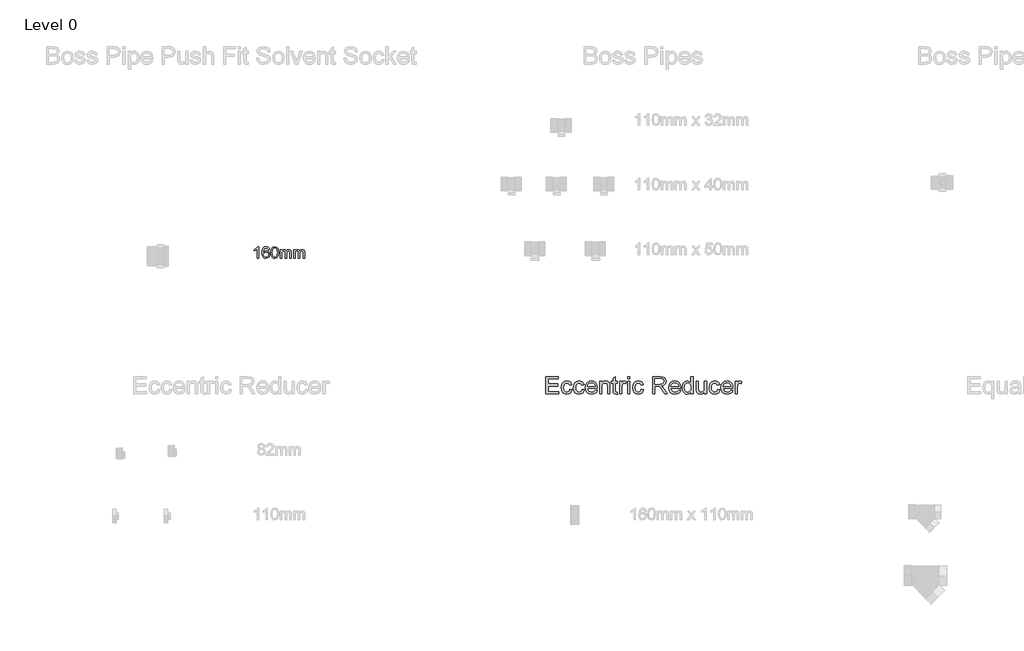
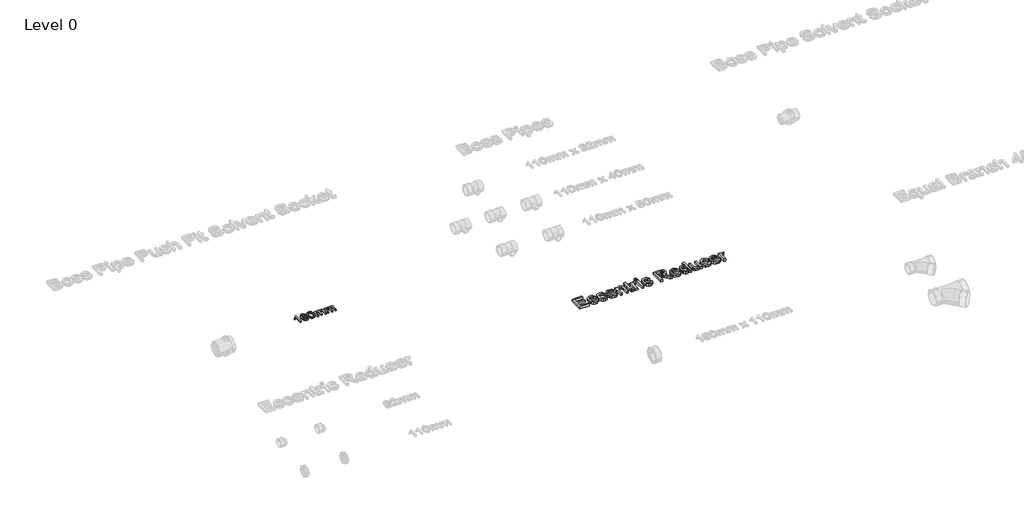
# One storey, part 10 of 28: 2 proxies.
"""IFC4 building model written with IfcOpenShell, lengths in millimetres."""

from ifc_helpers import new_model, si_unit, origin, origin_with_axes, place, context, project, spatial, polyline, outline, extrude, element, save

model = new_model("IFC4")

# Units and contexts
model_context = context("Model", 3, world=origin())
ifc_project = project(units=[si_unit("LENGTHUNIT", "METRE", prefix="MILLI")], contexts=[model_context])

# Site, building, storey
site = spatial("IfcSite", under=ifc_project)
building = spatial("IfcBuilding", under=site)
storey = spatial("IfcBuildingStorey", under=building, Name="Level 0", Elevation=0.0)

# Proxies
placement = place(None, origin())
element("IfcBuildingElementProxy", 1, Name="100mm Arial", ObjectType="100mm Arial", at=placement, inside=storey, context=model_context, shape_type="SweptSolid", body=[
    extrude(outline(polyline([(-20791.7293188, 4857.7167304), (-20804.0370111, 4857.7167304), (-20804.0370111, 4934.4474996), (-20815.6956649, 4926.1422111), (-20828.6523957, 4919.9282688), (-20828.6523957, 4931.5628842), (-20810.6115303, 4943.0773073), (-20799.6620111, 4956.1782688), (-20791.7293188, 4956.1782688), (-20791.7293188, 4857.7167304)])), origin_with_axes(), (0.0, 0.0, 1.0), 15.0),
    extrude(outline(polyline([(-20699.4216264, 4930.0244227), (-20711.7293188, 4928.4859611), (-20716.3927803, 4938.7503842), (-20728.7245111, 4943.8705765), (-20739.8302803, 4940.8898073), (-20748.2317226, 4929.6999035), (-20751.7293188, 4907.7648073), (-20740.8759534, 4917.5845188), (-20727.4264341, 4920.7936535), (-20716.0562418, 4918.6001438), (-20706.5129726, 4912.019615), (-20700.0406168, 4901.9655285), (-20697.8831649, 4889.3513458), (-20701.9456649, 4872.3681727), (-20713.1235495, 4860.3489419), (-20729.2533572, 4856.1782688), (-20743.2166986, 4858.9426919), (-20754.3374918, 4867.2359611), (-20761.6121313, 4881.8753842), (-20764.0370111, 4903.6782688), (-20761.3447034, 4928.19149), (-20753.2677803, 4944.9523073), (-20742.2401361, 4953.3717785), (-20727.9552803, 4956.1782688), (-20717.1560014, 4954.44149), (-20708.5081649, 4949.2311535), (-20702.4504726, 4940.9559131), (-20699.4216264, 4930.0244227)]), holes=[polyline([(-20751.7293188, 4889.5436535), (-20748.8807611, 4878.8825958), (-20741.3086457, 4871.1422111), (-20730.2148957, 4868.4859611), (-20722.0929005, 4869.8621631), (-20715.7076841, 4873.9907688), (-20711.5700639, 4880.4811535), (-20710.1908572, 4888.9426919), (-20711.5520351, 4897.0646871), (-20715.6355688, 4903.2575958), (-20730.7197034, 4908.4859611), (-20745.6115303, 4903.2575958), (-20750.1998716, 4897.2149275), (-20751.7293188, 4889.5436535)])]), origin_with_axes(), (0.0, 0.0, 1.0), 15.0),
    extrude(outline(polyline([(-20687.1139341, 4906.1542304), (-20683.4961457, 4934.4835573), (-20672.7509534, 4950.8176919), (-20654.8062418, 4956.1782688), (-20640.4312418, 4953.0051919), (-20630.5033572, 4943.8585573), (-20624.7341264, 4929.2912496), (-20622.4985495, 4906.1542304), (-20626.0802803, 4877.9450958), (-20636.7894149, 4861.5749035), (-20654.8062418, 4856.1782688), (-20667.5947034, 4858.5220188), (-20677.3062418, 4865.5532688), (-20684.6620111, 4882.2059131), (-20687.1139341, 4906.1542304)]), holes=[polyline([(-20674.8062418, 4906.1782688), (-20673.3639341, 4886.8182929), (-20669.0370111, 4875.613365), (-20662.5947034, 4870.2678121), (-20654.8062418, 4868.4859611), (-20647.0177803, 4870.2738217), (-20640.5754726, 4875.6374035), (-20636.2485495, 4886.848341), (-20634.8062418, 4906.1782688), (-20636.2004726, 4925.1025477), (-20640.3831649, 4936.394615), (-20646.8134534, 4942.0015861), (-20654.9504726, 4943.8705765), (-20662.6547995, 4942.2239419), (-20668.8447034, 4937.2840381), (-20673.3158572, 4925.2888458), (-20674.8062418, 4906.1782688)])]), origin_with_axes(), (0.0, 0.0, 1.0), 15.0),
    extrude(outline(polyline([(-20608.6523957, 4857.7167304), (-20608.6523957, 4930.0244227), (-20596.3447034, 4930.0244227), (-20596.3447034, 4918.1253842), (-20587.8831649, 4927.8729804), (-20575.8398957, 4931.5628842), (-20563.5081649, 4927.800865), (-20556.7293188, 4917.2599996), (-20547.1259534, 4927.9871631), (-20534.9985495, 4931.5628842), (-20525.7467466, 4930.0755044), (-20518.9047995, 4925.613365), (-20514.6770351, 4918.0562736), (-20513.2677803, 4907.2840381), (-20513.2677803, 4857.7167304), (-20525.5754726, 4857.7167304), (-20525.5754726, 4901.9955765), (-20526.7172995, 4912.2720188), (-20530.8519149, 4917.332115), (-20537.8831649, 4919.2551919), (-20549.9865303, 4914.3273073), (-20554.8062418, 4898.5340381), (-20554.8062418, 4857.7167304), (-20567.1139341, 4857.7167304), (-20567.1139341, 4903.3657688), (-20569.9624918, 4915.2888458), (-20579.3014341, 4919.2551919), (-20588.4120111, 4916.6109611), (-20594.4697034, 4908.8705765), (-20596.3447034, 4894.1830765), (-20596.3447034, 4857.7167304), (-20608.6523957, 4857.7167304)])), origin_with_axes(), (0.0, 0.0, 1.0), 15.0),
    extrude(outline(polyline([(-20494.8062418, 4857.7167304), (-20494.8062418, 4930.0244227), (-20482.4985495, 4930.0244227), (-20482.4985495, 4918.1253842), (-20474.0370111, 4927.8729804), (-20461.9937418, 4931.5628842), (-20449.6620111, 4927.800865), (-20442.8831649, 4917.2599996), (-20433.2797995, 4927.9871631), (-20421.1523957, 4931.5628842), (-20411.9005928, 4930.0755044), (-20405.0586457, 4925.613365), (-20400.8308813, 4918.0562736), (-20399.4216264, 4907.2840381), (-20399.4216264, 4857.7167304), (-20411.7293188, 4857.7167304), (-20411.7293188, 4901.9955765), (-20412.8711457, 4912.2720188), (-20417.0057611, 4917.332115), (-20424.0370111, 4919.2551919), (-20436.1403764, 4914.3273073), (-20440.960088, 4898.5340381), (-20440.960088, 4857.7167304), (-20453.2677803, 4857.7167304), (-20453.2677803, 4903.3657688), (-20456.116338, 4915.2888458), (-20465.4552803, 4919.2551919), (-20474.5658572, 4916.6109611), (-20480.6235495, 4908.8705765), (-20482.4985495, 4894.1830765), (-20482.4985495, 4857.7167304), (-20494.8062418, 4857.7167304)])), origin_with_axes(), (0.0, 0.0, 1.0), 15.0),
])
element("IfcBuildingElementProxy", 2, Name="150mm Arial", ObjectType="150mm Arial", at=placement, inside=storey, context=model_context, shape_type="SweptSolid", body=[
    extrude(outline(polyline([(-18351.7587589, 3705.2145219), (-18351.7587589, 3852.9068296), (-18245.6049127, 3852.9068296), (-18245.6049127, 3834.4452911), (-18333.2972204, 3834.4452911), (-18333.2972204, 3790.5991373), (-18250.2202973, 3790.5991373), (-18250.2202973, 3772.1375988), (-18333.2972204, 3772.1375988), (-18333.2972204, 3723.6760604), (-18243.2972204, 3723.6760604), (-18243.2972204, 3705.2145219), (-18351.7587589, 3705.2145219)])), origin_with_axes(), (0.0, 0.0, 1.0), 25.0),
    extrude(outline(polyline([(-18148.6818358, 3744.4452911), (-18130.2202973, 3742.1375988), (-18135.3675329, 3725.7178272), (-18145.0400089, 3713.3094738), (-18158.3272685, 3705.5074907), (-18174.318855, 3702.9068296), (-18193.9567757, 3706.5351349), (-18209.3128454, 3717.4200508), (-18219.2242036, 3735.0838128), (-18222.5279897, 3759.0486565), (-18216.8849608, 3789.7157238), (-18209.7635666, 3801.2136205), (-18199.6854416, 3809.4212527), (-18187.6286507, 3814.3431277), (-18174.5712589, 3815.9837527), (-18158.9717997, 3813.7301469), (-18146.5003454, 3806.9693296), (-18137.5535305, 3796.0618777), (-18132.5279897, 3781.3683681), (-18150.9895281, 3779.0606758), (-18159.55323, 3792.8888008), (-18174.4270281, 3797.5222142), (-18186.3576171, 3795.2415652), (-18195.8272685, 3788.3996181), (-18202.0066555, 3776.6267815), (-18204.0664512, 3759.5534642), (-18202.0517276, 3742.2502791), (-18196.007557, 3730.4368777), (-18186.7091796, 3723.6354955), (-18174.9318358, 3721.3683681), (-18165.3720401, 3722.7836325), (-18157.5339993, 3727.0294258), (-18151.8323767, 3734.213921), (-18148.6818358, 3744.4452911)])), origin_with_axes(), (0.0, 0.0, 1.0), 25.0),
    extrude(outline(polyline([(-18044.835682, 3744.4452911), (-18026.3741435, 3742.1375988), (-18031.5213791, 3725.7178272), (-18041.193855, 3713.3094738), (-18054.4811147, 3705.5074907), (-18070.4727012, 3702.9068296), (-18090.1106219, 3706.5351349), (-18105.4666916, 3717.4200508), (-18115.3780497, 3735.0838128), (-18118.6818358, 3759.0486565), (-18113.038807, 3789.7157238), (-18105.9174127, 3801.2136205), (-18095.8392877, 3809.4212527), (-18083.7824969, 3814.3431277), (-18070.725105, 3815.9837527), (-18055.1256459, 3813.7301469), (-18042.6541916, 3806.9693296), (-18033.7073767, 3796.0618777), (-18028.6818358, 3781.3683681), (-18047.1433743, 3779.0606758), (-18055.7070762, 3792.8888008), (-18070.5808743, 3797.5222142), (-18082.5114632, 3795.2415652), (-18091.9811147, 3788.3996181), (-18098.1605017, 3776.6267815), (-18100.2202973, 3759.5534642), (-18098.2055738, 3742.2502791), (-18092.1614031, 3730.4368777), (-18082.8630257, 3723.6354955), (-18071.085682, 3721.3683681), (-18061.5258863, 3722.7836325), (-18053.6878454, 3727.0294258), (-18047.9862228, 3734.213921), (-18044.835682, 3744.4452911)])), origin_with_axes(), (0.0, 0.0, 1.0), 25.0),
    extrude(outline(polyline([(-17934.2827973, 3737.5222142), (-17916.1818358, 3735.2145219), (-17922.7037709, 3721.5756998), (-17933.1109223, 3711.3803873), (-17947.1689151, 3705.025219), (-17964.6433743, 3702.9068296), (-17986.3050329, 3706.5621782), (-18002.9727012, 3717.5282238), (-18013.600706, 3735.0928272), (-18017.1433743, 3758.5438488), (-18013.5646483, 3782.7836325), (-18002.8284704, 3800.9116373), (-17986.3861627, 3812.2157238), (-17965.6890473, 3815.9837527), (-17945.6364632, 3812.2247383), (-17929.6133262, 3800.947695), (-17919.1070161, 3782.8557479), (-17915.6049127, 3758.6520219), (-17915.7130858, 3753.6760604), (-17998.6818358, 3753.6760604), (-17995.4862228, 3739.8569498), (-17988.0628454, 3729.697695), (-17977.3492036, 3723.4506998), (-17964.2827973, 3721.3683681), (-17946.1818358, 3725.2265411), (-17934.2827973, 3737.5222142)]), holes=[polyline([(-17998.6818358, 3772.1375988), (-17934.0664512, 3772.1375988), (-17936.5634464, 3781.8912046), (-17941.4582781, 3788.8683681), (-17952.2214993, 3795.3587527), (-17965.7611627, 3797.5222142), (-17978.2055738, 3795.7959522), (-17988.4955377, 3790.6171661), (-17995.6484824, 3782.5447503), (-17998.6818358, 3772.1375988)])]), origin_with_axes(), (0.0, 0.0, 1.0), 25.0),
    extrude(outline(polyline([(-17897.1433743, 3705.2145219), (-17897.1433743, 3813.6760604), (-17878.6818358, 3813.6760604), (-17878.6818358, 3798.5318296), (-17864.5652493, 3811.6207719), (-17845.2924127, 3815.9837527), (-17827.8585185, 3812.4681277), (-17815.95948, 3803.2373585), (-17810.4246243, 3789.6616373), (-17809.4510666, 3771.8130796), (-17809.4510666, 3705.2145219), (-17827.912605, 3705.2145219), (-17827.912605, 3769.3250988), (-17830.0400089, 3785.6592335), (-17837.5580377, 3794.2950508), (-17850.2323166, 3797.5222142), (-17861.0451171, 3795.7103152), (-17870.2623647, 3790.2746181), (-17876.576968, 3779.7728152), (-17878.6818358, 3762.7625988), (-17878.6818358, 3705.2145219), (-17897.1433743, 3705.2145219)])), origin_with_axes(), (0.0, 0.0, 1.0), 25.0),
    extrude(outline(polyline([(-17744.835682, 3720.6111565), (-17742.5279897, 3704.6736565), (-17756.3380858, 3702.9068296), (-17771.8068358, 3705.9717335), (-17779.523182, 3714.0125988), (-17781.7587589, 3734.9621181), (-17781.7587589, 3795.2145219), (-17795.6049127, 3795.2145219), (-17795.6049127, 3813.6760604), (-17781.7587589, 3813.6760604), (-17781.7587589, 3840.0342335), (-17763.2972204, 3850.8875988), (-17763.2972204, 3813.6760604), (-17744.835682, 3813.6760604), (-17744.835682, 3795.2145219), (-17763.2972204, 3795.2145219), (-17763.2972204, 3735.5029835), (-17762.3236627, 3725.9837527), (-17759.1686147, 3722.6123585), (-17752.8765473, 3721.3683681), (-17744.835682, 3720.6111565)])), origin_with_axes(), (0.0, 0.0, 1.0), 25.0),
    extrude(outline(polyline([(-17726.3741435, 3705.2145219), (-17726.3741435, 3813.6760604), (-17710.2202973, 3813.6760604), (-17710.2202973, 3797.6303873), (-17698.7539512, 3812.4140411), (-17687.2154897, 3815.9837527), (-17668.6818358, 3810.2866373), (-17674.8477012, 3793.7361565), (-17687.8284704, 3797.5222142), (-17698.2671723, 3793.8803873), (-17704.9198166, 3783.7842335), (-17707.912605, 3762.2217335), (-17707.912605, 3705.2145219), (-17726.3741435, 3705.2145219)])), origin_with_axes(), (0.0, 0.0, 1.0), 25.0),
    extrude(outline(polyline([(-17657.1433743, 3834.4452911), (-17657.1433743, 3852.9068296), (-17638.6818358, 3852.9068296), (-17638.6818358, 3834.4452911), (-17657.1433743, 3834.4452911)])), origin_with_axes(), (0.0, 0.0, 1.0), 25.0),
    extrude(outline(polyline([(-17657.1433743, 3705.2145219), (-17657.1433743, 3813.6760604), (-17638.6818358, 3813.6760604), (-17638.6818358, 3705.2145219), (-17657.1433743, 3705.2145219)])), origin_with_axes(), (0.0, 0.0, 1.0), 25.0),
    extrude(outline(polyline([(-17541.7587589, 3744.4452911), (-17523.2972204, 3742.1375988), (-17528.444456, 3725.7178272), (-17538.116932, 3713.3094738), (-17551.4041916, 3705.5074907), (-17567.3957781, 3702.9068296), (-17587.0336988, 3706.5351349), (-17602.3897685, 3717.4200508), (-17612.3011267, 3735.0838128), (-17615.6049127, 3759.0486565), (-17609.9618839, 3789.7157238), (-17602.8404897, 3801.2136205), (-17592.7623647, 3809.4212527), (-17580.7055738, 3814.3431277), (-17567.648182, 3815.9837527), (-17552.0487228, 3813.7301469), (-17539.5772685, 3806.9693296), (-17530.6304536, 3796.0618777), (-17525.6049127, 3781.3683681), (-17544.0664512, 3779.0606758), (-17552.6301531, 3792.8888008), (-17567.5039512, 3797.5222142), (-17579.4345401, 3795.2415652), (-17588.9041916, 3788.3996181), (-17595.0835786, 3776.6267815), (-17597.1433743, 3759.5534642), (-17595.1286507, 3742.2502791), (-17589.08448, 3730.4368777), (-17579.7861026, 3723.6354955), (-17568.0087589, 3721.3683681), (-17558.4489632, 3722.7836325), (-17550.6109223, 3727.0294258), (-17544.9092997, 3734.213921), (-17541.7587589, 3744.4452911)])), origin_with_axes(), (0.0, 0.0, 1.0), 25.0),
    extrude(outline(polyline([(-17447.1433743, 3705.2145219), (-17447.1433743, 3852.9068296), (-17383.5015473, 3852.9068296), (-17353.9522685, 3848.9224546), (-17344.8567156, 3843.4056277), (-17337.7984223, 3834.8238969), (-17333.2686747, 3824.1823705), (-17331.7587589, 3812.4861565), (-17334.2602613, 3797.9368777), (-17341.7647685, 3785.8755796), (-17354.4976411, 3777.0324306), (-17372.6842397, 3772.1375988), (-17362.1914512, 3764.2409642), (-17347.2275089, 3745.2385604), (-17322.600105, 3705.2145219), (-17344.054432, 3705.2145219), (-17363.273182, 3735.8275027), (-17377.1553935, 3756.0919258), (-17386.9089993, 3765.6652431), (-17395.6890473, 3769.1808681), (-17406.398182, 3769.8299065), (-17428.6818358, 3769.8299065), (-17428.6818358, 3705.2145219), (-17447.1433743, 3705.2145219)]), holes=[polyline([(-17428.6818358, 3788.291445), (-17387.3597204, 3788.291445), (-17366.2839993, 3790.9056277), (-17354.3128454, 3799.2710123), (-17350.2202973, 3811.8010604), (-17352.1719199, 3820.806469), (-17358.0267877, 3828.0630796), (-17368.1004055, 3832.8497383), (-17382.7082781, 3834.4452911), (-17428.6818358, 3834.4452911), (-17428.6818358, 3788.291445)])]), origin_with_axes(), (0.0, 0.0, 1.0), 25.0),
    extrude(outline(polyline([(-17225.8212589, 3737.5222142), (-17207.7202973, 3735.2145219), (-17214.2422324, 3721.5756998), (-17224.6493839, 3711.3803873), (-17238.7073767, 3705.025219), (-17256.1818358, 3702.9068296), (-17277.8434945, 3706.5621782), (-17294.5111627, 3717.5282238), (-17305.1391675, 3735.0928272), (-17308.6818358, 3758.5438488), (-17305.1031098, 3782.7836325), (-17294.366932, 3800.9116373), (-17277.9246243, 3812.2157238), (-17257.2275089, 3815.9837527), (-17237.1749247, 3812.2247383), (-17221.1517877, 3800.947695), (-17210.6454776, 3782.8557479), (-17207.1433743, 3758.6520219), (-17207.2515473, 3753.6760604), (-17290.2202973, 3753.6760604), (-17287.0246844, 3739.8569498), (-17279.601307, 3729.697695), (-17268.8876651, 3723.4506998), (-17255.8212589, 3721.3683681), (-17237.7202973, 3725.2265411), (-17225.8212589, 3737.5222142)]), holes=[polyline([(-17290.2202973, 3772.1375988), (-17225.6049127, 3772.1375988), (-17228.1019079, 3781.8912046), (-17232.9967397, 3788.8683681), (-17243.7599608, 3795.3587527), (-17257.2996243, 3797.5222142), (-17269.7440353, 3795.7959522), (-17280.0339993, 3790.6171661), (-17287.186944, 3782.5447503), (-17290.2202973, 3772.1375988)])]), origin_with_axes(), (0.0, 0.0, 1.0), 25.0),
    extrude(outline(polyline([(-17121.7587589, 3705.2145219), (-17121.7587589, 3722.6303873), (-17133.9733022, 3707.837719), (-17150.8573166, 3702.9068296), (-17162.7924127, 3704.6916854), (-17173.7178935, 3710.0462527), (-17182.9666916, 3718.596433), (-17189.8717397, 3729.9681277), (-17194.1716195, 3743.7016012), (-17195.6049127, 3759.3371181), (-17190.3224608, 3788.7241373), (-17183.7239031, 3800.3797863), (-17174.4931339, 3808.9525027), (-17163.3287709, 3814.2259402), (-17150.929432, 3815.9837527), (-17133.9102012, 3810.9537046), (-17121.7587589, 3797.8827911), (-17121.7587589, 3852.9068296), (-17103.2972204, 3852.9068296), (-17103.2972204, 3705.2145219), (-17121.7587589, 3705.2145219)]), holes=[polyline([(-17177.1433743, 3759.4092335), (-17175.0610425, 3742.7100147), (-17168.8140473, 3730.8335123), (-17159.7365233, 3723.7346541), (-17149.162605, 3721.3683681), (-17138.593194, 3723.6264811), (-17129.7455377, 3730.40082), (-17123.7554536, 3741.8175868), (-17121.7587589, 3758.0029835), (-17123.7915113, 3775.698296), (-17129.8897685, 3787.9669258), (-17138.9627853, 3795.1333921), (-17149.9198166, 3797.5222142), (-17160.6019079, 3795.2280436), (-17169.3549127, 3788.3455315), (-17175.1962589, 3776.5231157), (-17177.1433743, 3759.4092335)])]), origin_with_axes(), (0.0, 0.0, 1.0), 25.0),
    extrude(outline(polyline([(-17006.3741435, 3705.2145219), (-17006.3741435, 3723.8563488), (-17020.8332781, 3708.1442094), (-17039.6914512, 3702.9068296), (-17057.05323, 3706.5847142), (-17069.0243839, 3715.8154835), (-17074.523182, 3729.4092335), (-17075.6049127, 3746.572695), (-17075.6049127, 3813.6760604), (-17057.1433743, 3813.6760604), (-17057.1433743, 3755.2625988), (-17056.0255858, 3736.4404835), (-17048.7239031, 3725.3888008), (-17034.9678935, 3721.3683681), (-17019.55323, 3725.478945), (-17009.366932, 3736.6748585), (-17006.3741435, 3757.2457719), (-17006.3741435, 3813.6760604), (-16987.912605, 3813.6760604), (-16987.912605, 3705.2145219), (-17006.3741435, 3705.2145219)])), origin_with_axes(), (0.0, 0.0, 1.0), 25.0),
    extrude(outline(polyline([(-16893.2972204, 3744.4452911), (-16874.835682, 3742.1375988), (-16879.9829175, 3725.7178272), (-16889.6553935, 3713.3094738), (-16902.9426531, 3705.5074907), (-16918.9342397, 3702.9068296), (-16938.5721603, 3706.5351349), (-16953.92823, 3717.4200508), (-16963.8395882, 3735.0838128), (-16967.1433743, 3759.0486565), (-16961.5003454, 3789.7157238), (-16954.3789512, 3801.2136205), (-16944.3008262, 3809.4212527), (-16932.2440353, 3814.3431277), (-16919.1866435, 3815.9837527), (-16903.5871844, 3813.7301469), (-16891.11573, 3806.9693296), (-16882.1689151, 3796.0618777), (-16877.1433743, 3781.3683681), (-16895.6049127, 3779.0606758), (-16904.1686147, 3792.8888008), (-16919.0424127, 3797.5222142), (-16930.9730017, 3795.2415652), (-16940.4426531, 3788.3996181), (-16946.6220401, 3776.6267815), (-16948.6818358, 3759.5534642), (-16946.6671122, 3742.2502791), (-16940.6229416, 3730.4368777), (-16931.3245642, 3723.6354955), (-16919.5472204, 3721.3683681), (-16909.9874247, 3722.7836325), (-16902.1493839, 3727.0294258), (-16896.4477613, 3734.213921), (-16893.2972204, 3744.4452911)])), origin_with_axes(), (0.0, 0.0, 1.0), 25.0),
    extrude(outline(polyline([(-16782.7443358, 3737.5222142), (-16764.6433743, 3735.2145219), (-16771.1653094, 3721.5756998), (-16781.5724608, 3711.3803873), (-16795.6304536, 3705.025219), (-16813.1049127, 3702.9068296), (-16834.7665714, 3706.5621782), (-16851.4342397, 3717.5282238), (-16862.0622445, 3735.0928272), (-16865.6049127, 3758.5438488), (-16862.0261868, 3782.7836325), (-16851.2900089, 3800.9116373), (-16834.8477012, 3812.2157238), (-16814.1505858, 3815.9837527), (-16794.0980017, 3812.2247383), (-16778.0748647, 3800.947695), (-16767.5685546, 3782.8557479), (-16764.0664512, 3758.6520219), (-16764.1746243, 3753.6760604), (-16847.1433743, 3753.6760604), (-16843.9477613, 3739.8569498), (-16836.5243839, 3729.697695), (-16825.8107421, 3723.4506998), (-16812.7443358, 3721.3683681), (-16794.6433743, 3725.2265411), (-16782.7443358, 3737.5222142)]), holes=[polyline([(-16847.1433743, 3772.1375988), (-16782.5279897, 3772.1375988), (-16785.0249848, 3781.8912046), (-16789.9198166, 3788.8683681), (-16800.6830377, 3795.3587527), (-16814.2227012, 3797.5222142), (-16826.6671122, 3795.7959522), (-16836.9570762, 3790.6171661), (-16844.1100209, 3782.5447503), (-16847.1433743, 3772.1375988)])]), origin_with_axes(), (0.0, 0.0, 1.0), 25.0),
    extrude(outline(polyline([(-16745.6049127, 3705.2145219), (-16745.6049127, 3813.6760604), (-16729.4510666, 3813.6760604), (-16729.4510666, 3797.6303873), (-16717.9847204, 3812.4140411), (-16706.4462589, 3815.9837527), (-16687.912605, 3810.2866373), (-16694.0784704, 3793.7361565), (-16707.0592397, 3797.5222142), (-16717.4979416, 3793.8803873), (-16724.1505858, 3783.7842335), (-16727.1433743, 3762.2217335), (-16727.1433743, 3705.2145219), (-16745.6049127, 3705.2145219)])), origin_with_axes(), (0.0, 0.0, 1.0), 25.0),
])

save(model, "model.ifc")
